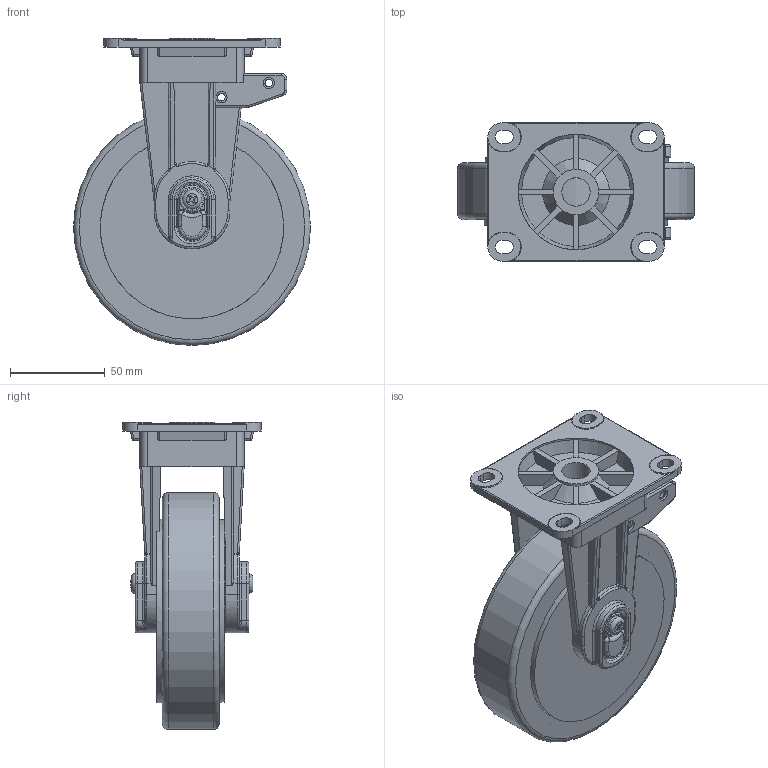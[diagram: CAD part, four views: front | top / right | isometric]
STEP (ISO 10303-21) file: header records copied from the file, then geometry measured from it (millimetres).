
FILE_DESCRIPTION((''),'2;1');
FILE_NAME('C:\Documents and Settings\Administrator\바탕 화면\2011년도\도면 및 견적서 발송\지덕 전체도면\3D도면\GDC\GDC-125-ARF\GDC-125ARF.stp','2012-02-03T09:20:47',('Administrator'),(''),'Autodesk Inventor 2009','Autodesk Inventor 2009','');
FILE_SCHEMA(('AUTOMOTIVE_DESIGN { 1 0 10303 214 1 1 1 1 }'));
Length unit declared in the file: millimetre
Products named in the file (1): GDC-125ARF
Bounding box: 125 x 73.01 x 162 mm (x, y, z)
Volume: 384213.8 mm3; surface area: 135990.2 mm2
Topology: 1 solids, 5 shells, 704 faces, 1736 edges, 1078 vertices
Faces by surface type: plane 274, cylinder 204, bspline 106, torus 62, cone 54, sphere 4
Full cylindrical faces by diameter (mm): 4 x4, 4.917 x1, 6 x5, 7.9 x4, 8.4 x4, 10.2 x1, 11.5 x1, 13 x1, 15 x1, 18 x1, 24 x1, 61 x1, 87.822 x2, 96.74 x2, 124.998 x1
Entity records: 29102 total; most frequent: CARTESIAN_POINT 13032, DIRECTION 3374, ORIENTED_EDGE 3280, EDGE_CURVE 1640, AXIS2_PLACEMENT_3D 1332, VERTEX_POINT 1055, EDGE_LOOP 841, VECTOR 710
